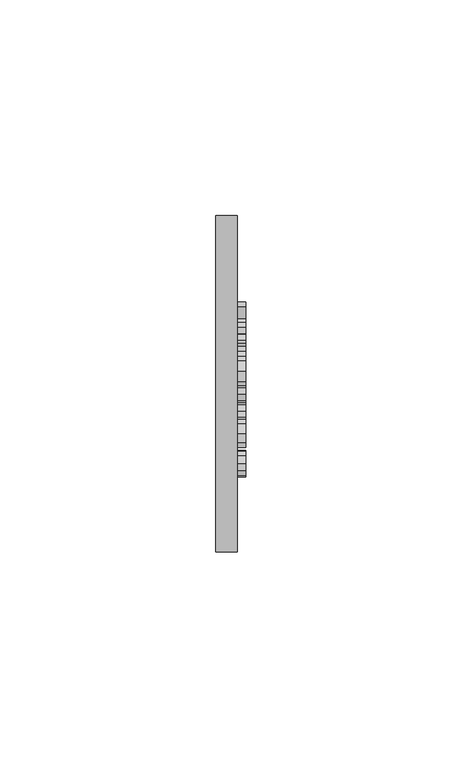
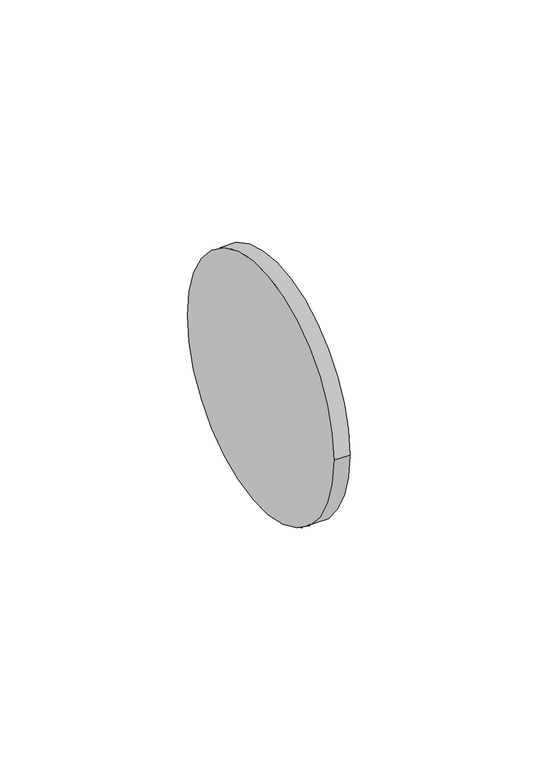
"""IFC4 building model written with IfcOpenShell, lengths in millimetres: duct fitting geometry, NLRS_57_DUF_UN_dummy cap round_M&G : ø78."""

from ifc_helpers import new_model, si_unit, point, frame, origin, origin_2d, place, context, project, spatial, polyline, circle_curve, trimmed, segment, composite_curve, outline, extrude, source, transform, mapped, element, save


def duct_fitting_66600ef7(model_context):
    return source(origin(), model_context, "Body", "SweptSolid", [
        extrude(outline(composite_curve([segment(trimmed(circle_curve(origin_2d(), 39.0), [point((39.0, 0.0))], [point((-39.0, 0.0))], False, "CARTESIAN"), True, "CONTINUOUS"), segment(trimmed(circle_curve(origin_2d(), 39.0), [point((-39.0, 0.0))], [point((39.0, 0.0))], False, "CARTESIAN"), True, "CONTINUOUS")], self_intersect=False)), frame((0.0, 0.0, 0.0), z_axis=(1.0, 0.0, 0.0), x_axis=(0.0, 1.0, 0.0)), (0.0, 0.0, 1.0), 5.0),
        extrude(outline(polyline([(-16.7324101, 3.986925), (-15.5016409, 3.8330789), (-16.4896216, 1.9112039), (-18.4415447, 1.2176943), (-20.7744774, 2.1852423), (-21.655487, 4.9604827), (-21.2792851, 7.0049539), (-20.1326505, 8.3186558), (-18.4583716, 8.7561558), (-16.5869774, 8.1551943), (-15.655487, 6.4484635), (-16.8862562, 6.2946173), (-17.4571697, 7.2164923), (-18.4487562, 7.5253866), (-19.8754389, 6.9172135), (-20.4247178, 4.9941366), (-19.8874582, 3.0530308), (-18.4824101, 2.4484635), (-17.3225543, 2.8258673), (-16.7324101, 3.986925)])), frame((5.0, 0.0, 0.0), z_axis=(1.0, 0.0, 0.0), x_axis=(0.0, 1.0, 0.0)), (0.0, 0.0, 1.0), 2.0),
        extrude(outline(polyline([(-14.7324101, 4.986925), (-13.6675062, 7.955675), (-11.499237, 8.7561558), (-9.1735159, 7.7813962), (-8.2708716, 5.0878866), (-8.6699101, 2.8979827), (-9.8321697, 1.6588), (-11.499237, 1.2176943), (-13.8393812, 2.1888481), (-14.7324101, 4.986925)]), holes=[polyline([(-13.5016409, 4.9893289), (-12.9319293, 3.0818769), (-11.499237, 2.4484635), (-10.0713524, 3.0854827), (-9.5016409, 5.0277904), (-10.0749582, 6.8919731), (-11.499237, 7.5253866), (-12.9319293, 6.8943769), (-13.5016409, 4.9893289)])]), frame((5.0, 0.0, 0.0), z_axis=(1.0, 0.0, 0.0), x_axis=(0.0, 1.0, 0.0)), (0.0, 0.0, 1.0), 2.0),
        extrude(outline(polyline([(-5.1122178, 1.3715404), (-7.655487, 8.6023096), (-6.3526024, 8.6023096), (-4.811737, 4.2705789), (-4.3477947, 2.8138481), (-3.8934678, 4.1888481), (-2.342987, 8.6023096), (-1.0401024, 8.6023096), (-3.5521216, 1.3715404), (-5.1122178, 1.3715404)])), frame((5.0, 0.0, 0.0), z_axis=(1.0, 0.0, 0.0), x_axis=(0.0, 1.0, 0.0)), (0.0, 0.0, 1.0), 2.0),
        extrude(outline(polyline([(5.0993207, 3.5253866), (6.3060515, 3.3715404), (5.1774457, 1.7825981), (3.0752822, 1.2176943), (0.5199938, 2.1924539), (-0.4247178, 4.9268289), (0.5296091, 7.7513481), (3.0055707, 8.7561558), (5.4106188, 7.7537519), (6.344513, 4.9340404), (0.8060515, 4.6023096), (1.5139841, 3.0037519), (3.0993207, 2.4484635), (4.3060515, 2.705675), (5.0993207, 3.5253866)]), holes=[polyline([(0.8060515, 5.8330789), (5.1137438, 5.8330789), (4.6209553, 6.9484635), (3.000763, 7.5253866), (1.485138, 7.06505), (0.8060515, 5.8330789)])]), frame((5.0, 0.0, 0.0), z_axis=(1.0, 0.0, 0.0), x_axis=(0.0, 1.0, 0.0)), (0.0, 0.0, 1.0), 2.0),
        extrude(outline(polyline([(7.5752822, 1.3715404), (7.5752822, 8.6023096), (8.6522053, 8.6023096), (8.6522053, 7.5325981), (9.4166284, 8.518175), (10.1858591, 8.7561558), (11.4214361, 8.3763481), (11.0103784, 7.2729827), (10.1449938, 7.5253866), (9.0055707, 6.6095212), (8.8060515, 5.1720212), (8.8060515, 1.3715404), (7.5752822, 1.3715404)])), frame((5.0, 0.0, 0.0), z_axis=(1.0, 0.0, 0.0), x_axis=(0.0, 1.0, 0.0)), (0.0, 0.0, 1.0), 2.0),
        extrude(outline(polyline([(15.1137438, 1.3715404), (17.8829745, 11.2176943), (18.9935515, 11.2176943), (16.2243207, 1.3715404), (15.1137438, 1.3715404)])), frame((5.0, 0.0, 0.0), z_axis=(1.0, 0.0, 0.0), x_axis=(0.0, 1.0, 0.0)), (0.0, 0.0, 1.0), 2.0),
        extrude(outline(polyline([(-16.7324101, -8.1669211), (-15.5016409, -8.3207673), (-16.4896216, -10.2426423), (-18.4415447, -10.9361519), (-20.7744774, -9.9686038), (-21.655487, -7.1933634), (-21.2792851, -5.1488923), (-20.1326505, -3.8351904), (-18.4583716, -3.3976904), (-16.5869774, -3.9986519), (-15.655487, -5.7053827), (-16.8862562, -5.8592288), (-17.4571697, -4.9373538), (-18.4487562, -4.6284596), (-19.8754389, -5.2366327), (-20.4247178, -7.1597096), (-19.8874582, -9.1008154), (-18.4824101, -9.7053827), (-17.3225543, -9.3279788), (-16.7324101, -8.1669211)])), frame((5.0, 0.0, 0.0), z_axis=(1.0, 0.0, 0.0), x_axis=(0.0, 1.0, 0.0)), (0.0, 0.0, 1.0), 2.0),
        extrude(outline(polyline([(7.0, -13.1939485), (7.0, -14.4247178), (5.0, -14.4247178), (5.0, -13.1939485), (7.0, -13.1939485)])), frame((0.0, 0.0, -10.7823057), z_axis=(0.0, 0.0, 1.0), x_axis=(1.0, 0.0, 0.0)), (0.0, 0.0, 1.0), 9.8461538),
        extrude(outline(polyline([(-11.655487, -7.1669211), (-10.5905832, -4.1981711), (-8.4223139, -3.3976904), (-6.0965928, -4.37245), (-5.1939485, -7.0659596), (-5.592987, -9.2558634), (-6.7552466, -10.4950461), (-8.4223139, -10.9361519), (-10.7624582, -9.9649981), (-11.655487, -7.1669211)]), holes=[polyline([(-10.4247178, -7.1645173), (-9.8550062, -9.0719692), (-8.4223139, -9.7053827), (-6.9944293, -9.0683634), (-6.4247178, -7.1260557), (-6.9980351, -5.2618731), (-8.4223139, -4.6284596), (-9.8550062, -5.2594692), (-10.4247178, -7.1645173)])]), frame((5.0, 0.0, 0.0), z_axis=(1.0, 0.0, 0.0), x_axis=(0.0, 1.0, 0.0)), (0.0, 0.0, 1.0), 2.0),
        extrude(outline(polyline([(-4.2708716, -8.6284596), (-3.0401024, -8.4746134), (-2.4703909, -9.388075), (-1.1651024, -9.7053827), (0.0897053, -9.4145173), (0.4983591, -8.731825), (-1.1795255, -7.8279788), (-3.0328909, -7.2258154), (-3.8417851, -6.5226904), (-4.1170255, -5.5299019), (-3.8958716, -4.6128346), (-3.2925062, -3.9121134), (-2.5100543, -3.5479307), (-1.4511601, -3.3976904), (0.0464361, -3.6392769), (0.9983591, -4.2931231), (1.4214361, -5.3976904), (0.1906668, -5.5515365), (-0.2720735, -4.87245), (-1.3550062, -4.6284596), (-2.5328909, -4.8616327), (-1.2203909, -6.2967288), (0.5860995, -6.8760557), (1.4250418, -7.5323057), (1.7291284, -8.6020173), (1.3721572, -9.7799019), (0.3421091, -10.6344692), (-1.1819293, -10.9361519), (-3.3285639, -10.3544211), (-4.2708716, -8.6284596)])), frame((5.0, 0.0, 0.0), z_axis=(1.0, 0.0, 0.0), x_axis=(0.0, 1.0, 0.0)), (0.0, 0.0, 1.0), 2.0),
        extrude(outline(polyline([(8.1762438, -8.6284596), (9.3829745, -8.7823057), (8.2543688, -10.3712481), (6.1522053, -10.9361519), (3.5969168, -9.9613923), (2.6522053, -7.2270173), (3.6065322, -4.4024981), (6.0824938, -3.3976904), (8.4875418, -4.4000942), (9.4214361, -7.2198057), (3.8829745, -7.5515365), (4.5909072, -9.1500942), (6.1762438, -9.7053827), (7.3829745, -9.4481711), (8.1762438, -8.6284596)]), holes=[polyline([(3.8829745, -6.3207673), (8.1906668, -6.3207673), (7.6978784, -5.2053827), (6.0776861, -4.6284596), (4.5620611, -5.0887961), (3.8829745, -6.3207673)])]), frame((5.0, 0.0, 0.0), z_axis=(1.0, 0.0, 0.0), x_axis=(0.0, 1.0, 0.0)), (0.0, 0.0, 1.0), 2.0),
        extrude(outline(polyline([(15.1137438, -10.7823057), (15.1137438, -9.6212481), (13.1738399, -10.9361519), (11.6498015, -10.4601904), (10.5728784, -9.1320654), (10.1906668, -7.1741327), (10.5428303, -5.2149981), (11.5981188, -3.8664404), (13.1690322, -3.3976904), (14.3036476, -3.7330269), (15.1137438, -4.6044211), (15.1137438, -0.9361519), (16.344513, -0.9361519), (16.344513, -10.7823057), (15.1137438, -10.7823057)]), holes=[polyline([(11.4214361, -7.169325), (11.9767245, -9.0743731), (13.2868207, -9.7053827), (14.5812918, -9.1032192), (15.1137438, -7.263075), (14.5716765, -5.2654788), (13.2363399, -4.6284596), (11.9406668, -5.2402384), (11.4214361, -7.169325)])]), frame((5.0, 0.0, 0.0), z_axis=(1.0, 0.0, 0.0), x_axis=(0.0, 1.0, 0.0)), (0.0, 0.0, 1.0), 2.0),
    ])


if __name__ == "__main__":
    model = new_model("IFC4")
    model_context = context("Model", 3, world=origin())
    ifc_project = project(units=[si_unit("LENGTHUNIT", "METRE", prefix="MILLI")], contexts=[model_context])
    site = spatial("IfcSite", under=ifc_project)
    building = spatial("IfcBuilding", under=site)
    placement = place(None, origin())
    duct_fitting_shape = duct_fitting_66600ef7(model_context)
    element("IfcDuctFitting", 1, ObjectType="NLRS_57_DUF_UN_dummy cap round_M&G : ø78", at=placement, inside=building, context=model_context, shape_type="MappedRepresentation", body=[
        mapped(duct_fitting_shape, transform((0.0, 0.0, 0.0), x_axis=(1.0, 0.0, 0.0), y_axis=(0.0, 1.0, 0.0), z_axis=(0.0, 0.0, 1.0))),
    ])
    save(model, "model.ifc")
